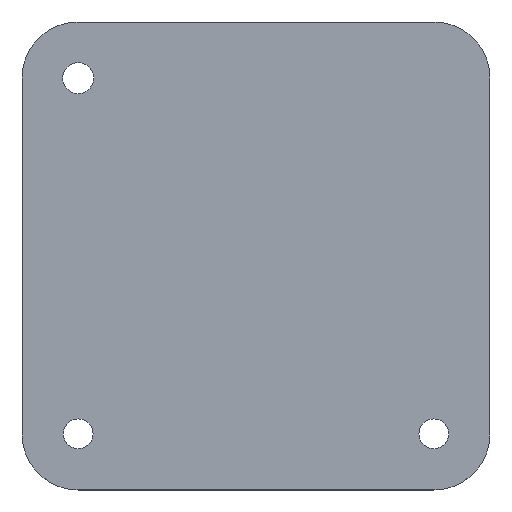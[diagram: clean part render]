
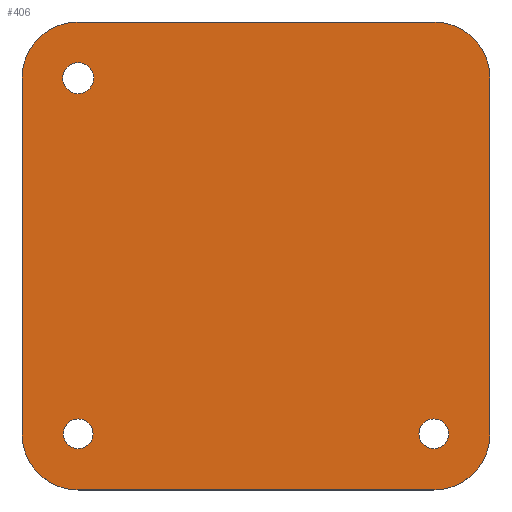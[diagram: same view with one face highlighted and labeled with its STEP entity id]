
A CAD part, top view. The second image highlights one B-rep face of the part: STEP entity #406.
In plain terms, the highlighted planar face has unit normal (0, 0, 1).
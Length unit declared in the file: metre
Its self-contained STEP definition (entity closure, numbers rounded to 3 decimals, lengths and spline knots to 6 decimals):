
#13=CIRCLE('',#427,0.006003);
#15=CIRCLE('',#433,0.006003);
#17=CIRCLE('',#439,0.006003);
#19=CIRCLE('',#445,0.006003);
#20=CIRCLE('',#447,0.001587);
#22=CIRCLE('',#450,0.00165);
#24=CIRCLE('',#454,0.001587);
#103=ORIENTED_EDGE('',*,*,#143,.T.);
#104=ORIENTED_EDGE('',*,*,#147,.T.);
#105=ORIENTED_EDGE('',*,*,#150,.T.);
#106=ORIENTED_EDGE('',*,*,#153,.T.);
#107=ORIENTED_EDGE('',*,*,#156,.T.);
#108=ORIENTED_EDGE('',*,*,#159,.T.);
#109=ORIENTED_EDGE('',*,*,#162,.T.);
#110=ORIENTED_EDGE('',*,*,#165,.T.);
#111=ORIENTED_EDGE('',*,*,#168,.T.);
#112=ORIENTED_EDGE('',*,*,#171,.T.);
#113=ORIENTED_EDGE('',*,*,#174,.T.);
#114=ORIENTED_EDGE('',*,*,#177,.T.);
#115=ORIENTED_EDGE('',*,*,#180,.T.);
#116=ORIENTED_EDGE('',*,*,#183,.T.);
#117=ORIENTED_EDGE('',*,*,#186,.T.);
#118=ORIENTED_EDGE('',*,*,#192,.T.);
#119=ORIENTED_EDGE('',*,*,#189,.T.);
#120=ORIENTED_EDGE('',*,*,#187,.F.);
#121=ORIENTED_EDGE('',*,*,#193,.F.);
#143=EDGE_CURVE('',#198,#197,#235,.T.);
#147=EDGE_CURVE('',#197,#200,#239,.T.);
#150=EDGE_CURVE('',#200,#202,#13,.T.);
#153=EDGE_CURVE('',#202,#204,#243,.T.);
#156=EDGE_CURVE('',#204,#206,#246,.T.);
#159=EDGE_CURVE('',#206,#208,#249,.T.);
#162=EDGE_CURVE('',#208,#210,#15,.T.);
#165=EDGE_CURVE('',#210,#212,#253,.T.);
#168=EDGE_CURVE('',#212,#214,#256,.T.);
#171=EDGE_CURVE('',#214,#216,#259,.T.);
#174=EDGE_CURVE('',#216,#218,#17,.T.);
#177=EDGE_CURVE('',#218,#220,#263,.T.);
#180=EDGE_CURVE('',#220,#222,#266,.T.);
#183=EDGE_CURVE('',#222,#224,#269,.T.);
#186=EDGE_CURVE('',#224,#226,#19,.T.);
#187=EDGE_CURVE('',#227,#227,#20,.T.);
#189=EDGE_CURVE('',#229,#229,#22,.T.);
#192=EDGE_CURVE('',#226,#198,#272,.T.);
#193=EDGE_CURVE('',#231,#231,#24,.T.);
#197=VERTEX_POINT('',#576);
#198=VERTEX_POINT('',#578);
#200=VERTEX_POINT('',#584);
#202=VERTEX_POINT('',#590);
#204=VERTEX_POINT('',#596);
#206=VERTEX_POINT('',#602);
#208=VERTEX_POINT('',#608);
#210=VERTEX_POINT('',#614);
#212=VERTEX_POINT('',#620);
#214=VERTEX_POINT('',#626);
#216=VERTEX_POINT('',#632);
#218=VERTEX_POINT('',#638);
#220=VERTEX_POINT('',#644);
#222=VERTEX_POINT('',#650);
#224=VERTEX_POINT('',#656);
#226=VERTEX_POINT('',#662);
#227=VERTEX_POINT('',#666);
#229=VERTEX_POINT('',#671);
#231=VERTEX_POINT('',#679);
#235=LINE('',#577,#275);
#239=LINE('',#585,#279);
#243=LINE('',#597,#283);
#246=LINE('',#603,#286);
#249=LINE('',#609,#289);
#253=LINE('',#621,#293);
#256=LINE('',#627,#296);
#259=LINE('',#633,#299);
#263=LINE('',#645,#303);
#266=LINE('',#651,#306);
#269=LINE('',#657,#309);
#272=LINE('',#676,#312);
#275=VECTOR('',#464,1.);
#279=VECTOR('',#470,1.);
#283=VECTOR('',#482,1.);
#286=VECTOR('',#487,1.);
#289=VECTOR('',#492,1.);
#293=VECTOR('',#504,1.);
#296=VECTOR('',#509,1.);
#299=VECTOR('',#514,1.);
#303=VECTOR('',#526,1.);
#306=VECTOR('',#531,1.);
#309=VECTOR('',#536,1.);
#312=VECTOR('',#559,1.);
#335=EDGE_LOOP('',(#103,#104,#105,#106,#107,#108,#109,#110,#111,#112,#113,
#114,#115,#116,#117,#118));
#336=EDGE_LOOP('',(#119));
#337=EDGE_LOOP('',(#120));
#338=EDGE_LOOP('',(#121));
#365=FACE_BOUND('',#335,.T.);
#366=FACE_BOUND('',#336,.T.);
#367=FACE_BOUND('',#337,.T.);
#368=FACE_BOUND('',#338,.T.);
#385=PLANE('',#456);
#406=ADVANCED_FACE('',(#365,#366,#367,#368),#385,.T.);
#427=AXIS2_PLACEMENT_3D('',#591,#476,#477);
#433=AXIS2_PLACEMENT_3D('',#615,#498,#499);
#439=AXIS2_PLACEMENT_3D('',#639,#520,#521);
#445=AXIS2_PLACEMENT_3D('',#663,#542,#543);
#447=AXIS2_PLACEMENT_3D('',#665,#546,#547);
#450=AXIS2_PLACEMENT_3D('',#670,#552,#553);
#454=AXIS2_PLACEMENT_3D('',#678,#562,#563);
#456=AXIS2_PLACEMENT_3D('',#682,#566,#567);
#464=DIRECTION('',(0.,-1.,0.));
#470=DIRECTION('',(0.01,-1.,0.));
#476=DIRECTION('',(0.,0.,1.));
#477=DIRECTION('',(1.,0.,0.));
#482=DIRECTION('',(1.,-0.01,0.));
#487=DIRECTION('',(1.,0.,0.));
#492=DIRECTION('',(1.,0.01,0.));
#498=DIRECTION('',(0.,0.,1.));
#499=DIRECTION('',(1.,0.,0.));
#504=DIRECTION('',(0.01,1.,0.));
#509=DIRECTION('',(0.,1.,0.));
#514=DIRECTION('',(-0.01,1.,0.));
#520=DIRECTION('',(0.,0.,1.));
#521=DIRECTION('',(1.,0.,0.));
#526=DIRECTION('',(-1.,0.01,0.));
#531=DIRECTION('',(-1.,0.,0.));
#536=DIRECTION('',(-1.,-0.01,0.));
#542=DIRECTION('',(0.,0.,1.));
#543=DIRECTION('',(1.,0.,0.));
#546=DIRECTION('',(0.,0.,1.));
#547=DIRECTION('',(1.,0.,0.));
#552=DIRECTION('',(0.,0.,-1.));
#553=DIRECTION('',(-1.,0.,0.));
#559=DIRECTION('',(-0.01,-1.,0.));
#562=DIRECTION('',(0.,0.,1.));
#563=DIRECTION('',(1.,0.,0.));
#566=DIRECTION('',(0.,0.,1.));
#567=DIRECTION('',(1.,0.,0.));
#576=CARTESIAN_POINT('',(0.134,-0.124,0.014245));
#577=CARTESIAN_POINT('',(0.134,-0.0882,0.014245));
#578=CARTESIAN_POINT('',(0.134,-0.086,0.014245));
#584=CARTESIAN_POINT('',(0.134003,-0.124248,0.014245));
#585=CARTESIAN_POINT('',(0.134001,-0.124124,0.014245));
#590=CARTESIAN_POINT('',(0.139752,-0.129997,0.014245));
#591=CARTESIAN_POINT('',(0.14,-0.124,0.014245));
#596=CARTESIAN_POINT('',(0.14,-0.13,0.014245));
#597=CARTESIAN_POINT('',(0.139876,-0.129999,0.014245));
#602=CARTESIAN_POINT('',(0.178,-0.13,0.014245));
#603=CARTESIAN_POINT('',(0.159,-0.13,0.014245));
#608=CARTESIAN_POINT('',(0.178248,-0.129997,0.014245));
#609=CARTESIAN_POINT('',(0.178124,-0.129999,0.014245));
#614=CARTESIAN_POINT('',(0.183997,-0.124248,0.014245));
#615=CARTESIAN_POINT('',(0.178,-0.124,0.014245));
#620=CARTESIAN_POINT('',(0.184,-0.124,0.014245));
#621=CARTESIAN_POINT('',(0.183999,-0.124124,0.014245));
#626=CARTESIAN_POINT('',(0.184,-0.086,0.014245));
#627=CARTESIAN_POINT('',(0.184,-0.1028,0.014245));
#632=CARTESIAN_POINT('',(0.183997,-0.085752,0.014245));
#633=CARTESIAN_POINT('',(0.183999,-0.085876,0.014245));
#638=CARTESIAN_POINT('',(0.178248,-0.080003,0.014245));
#639=CARTESIAN_POINT('',(0.178,-0.086,0.014245));
#644=CARTESIAN_POINT('',(0.178,-0.08,0.014245));
#645=CARTESIAN_POINT('',(0.178124,-0.080001,0.014245));
#650=CARTESIAN_POINT('',(0.14,-0.08,0.014245));
#651=CARTESIAN_POINT('',(0.1422,-0.08,0.014245));
#656=CARTESIAN_POINT('',(0.139752,-0.080003,0.014245));
#657=CARTESIAN_POINT('',(0.139876,-0.080001,0.014245));
#662=CARTESIAN_POINT('',(0.134003,-0.085752,0.014245));
#663=CARTESIAN_POINT('',(0.14,-0.086,0.014245));
#665=CARTESIAN_POINT('',(0.178,-0.124,0.014245));
#666=CARTESIAN_POINT('',(0.179587,-0.124,0.014245));
#670=CARTESIAN_POINT('',(0.14,-0.086,0.014245));
#671=CARTESIAN_POINT('',(0.13835,-0.086,0.014245));
#676=CARTESIAN_POINT('',(0.134001,-0.085876,0.014245));
#678=CARTESIAN_POINT('',(0.14,-0.124,0.014245));
#679=CARTESIAN_POINT('',(0.141587,-0.124,0.014245));
#682=CARTESIAN_POINT('',(0.159,-0.105,0.014245));
